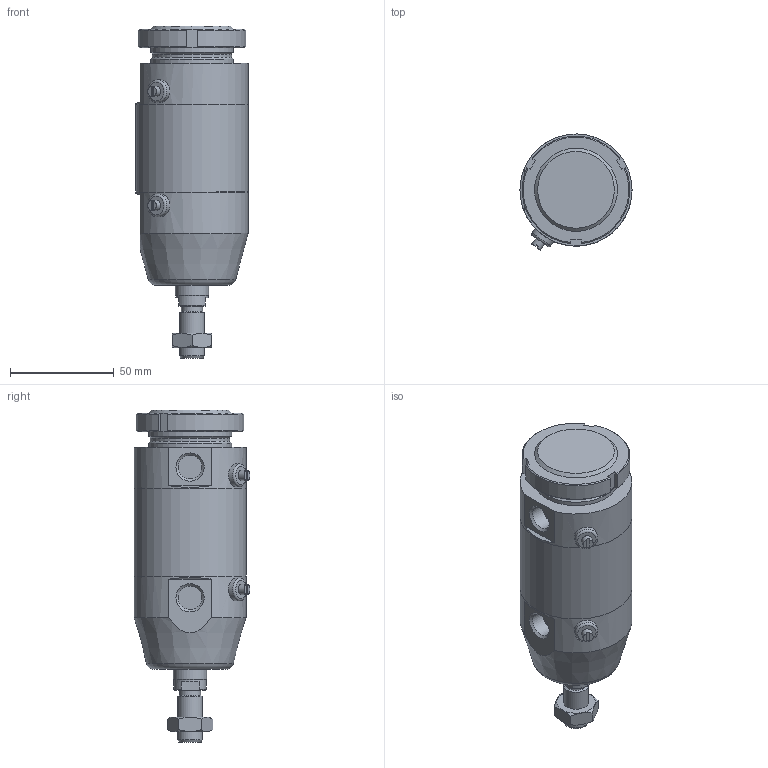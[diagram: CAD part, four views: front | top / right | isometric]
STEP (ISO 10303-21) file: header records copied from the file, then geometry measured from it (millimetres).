
FILE_DESCRIPTION(/* description */ (''),/* implementation_level */ '2;1');
FILE_NAME(/* name */ 'I:\Area Tecnica\Documenti\A-Manieri\_Inventor\12X\12X#B_###_####_#_#\12XBB_050_0000_#_#.stp',/* time_stamp */ '2015-04-28T14:28:14+02:00',/* author */ ('maniean1'),/* organization */ ('Pneumax S.p.A.'),/* preprocessor_version */ 'ST-DEVELOPER v15.2',/* originating_system */ 'Autodesk Inventor 2014',/* authorisation */ '');
FILE_SCHEMA (('AUTOMOTIVE_DESIGN { 1 0 10303 214 3 1 1 }'));
Length unit declared in the file: millimetre
Products named in the file (7): C1250_619-0000; 12X50_614; S12X50_0000; 12X_50_11; 12X50_621; G12X_050_05; 12XBB_050_0000_#_#
Bounding box: 54 x 55.88 x 160 mm (x, y, z)
Volume: 267548.6 mm3; surface area: 57382.4 mm2
Topology: 6 solids, 6 shells, 98 faces, 217 edges, 140 vertices
Faces by surface type: plane 52, cylinder 24, cone 19, torus 3
Full cylindrical faces by diameter (mm): 5 x2, 10.2 x1, 11 x2, 11.4 x2, 12 x2, 14 x1, 15.6 x1, 16 x1, 38.2 x1, 40 x3, 50 x2, 54 x3
Entity records: 2646 total; most frequent: CARTESIAN_POINT 539, DIRECTION 439, ORIENTED_EDGE 346, AXIS2_PLACEMENT_3D 186, EDGE_CURVE 173, EDGE_LOOP 150, VERTEX_POINT 131, ADVANCED_FACE 98
